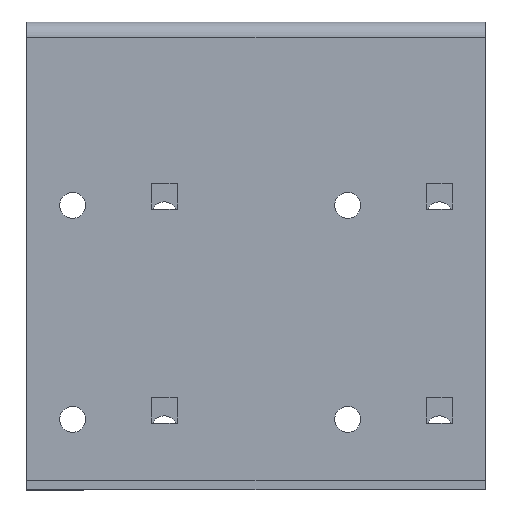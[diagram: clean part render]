
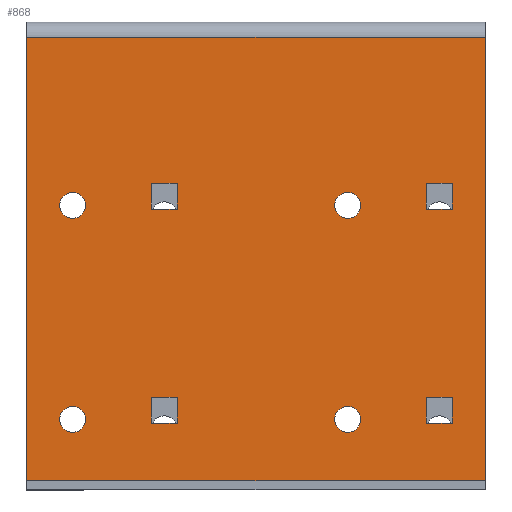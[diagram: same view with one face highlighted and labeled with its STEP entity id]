
A CAD part, top view. The second image highlights one B-rep face of the part: STEP entity #868.
In plain terms, the highlighted planar face has unit normal (0, 0, 1).
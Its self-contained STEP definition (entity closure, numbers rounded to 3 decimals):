
#23=FACE_BOUND('',#104,.T.);
#24=FACE_BOUND('',#105,.T.);
#25=FACE_BOUND('',#106,.T.);
#26=FACE_BOUND('',#107,.T.);
#27=FACE_BOUND('',#108,.T.);
#28=FACE_BOUND('',#109,.T.);
#29=FACE_BOUND('',#110,.T.);
#30=FACE_BOUND('',#111,.T.);
#57=FACE_OUTER_BOUND('',#103,.T.);
#103=EDGE_LOOP('',(#606,#607,#608,#609));
#104=EDGE_LOOP('',(#610));
#105=EDGE_LOOP('',(#611));
#106=EDGE_LOOP('',(#612));
#107=EDGE_LOOP('',(#613));
#108=EDGE_LOOP('',(#614,#615,#616,#617));
#109=EDGE_LOOP('',(#618,#619,#620,#621));
#110=EDGE_LOOP('',(#622,#623,#624,#625));
#111=EDGE_LOOP('',(#626,#627,#628,#629));
#170=LINE('',#1239,#272);
#174=LINE('',#1246,#276);
#175=LINE('',#1249,#277);
#176=LINE('',#1250,#278);
#177=LINE('',#1261,#279);
#178=LINE('',#1263,#280);
#179=LINE('',#1265,#281);
#180=LINE('',#1266,#282);
#181=LINE('',#1269,#283);
#182=LINE('',#1271,#284);
#183=LINE('',#1273,#285);
#184=LINE('',#1274,#286);
#185=LINE('',#1277,#287);
#186=LINE('',#1279,#288);
#187=LINE('',#1281,#289);
#188=LINE('',#1282,#290);
#189=LINE('',#1285,#291);
#190=LINE('',#1287,#292);
#191=LINE('',#1289,#293);
#192=LINE('',#1290,#294);
#272=VECTOR('',#1002,150.);
#276=VECTOR('',#1008,145.);
#277=VECTOR('',#1011,150.);
#278=VECTOR('',#1012,145.);
#279=VECTOR('',#1021,8.5);
#280=VECTOR('',#1022,8.5);
#281=VECTOR('',#1023,8.5);
#282=VECTOR('',#1024,8.5);
#283=VECTOR('',#1025,8.5);
#284=VECTOR('',#1026,8.5);
#285=VECTOR('',#1027,8.5);
#286=VECTOR('',#1028,8.5);
#287=VECTOR('',#1029,8.5);
#288=VECTOR('',#1030,8.5);
#289=VECTOR('',#1031,8.5);
#290=VECTOR('',#1032,8.5);
#291=VECTOR('',#1033,8.5);
#292=VECTOR('',#1034,8.5);
#293=VECTOR('',#1035,8.5);
#294=VECTOR('',#1036,8.5);
#372=CIRCLE('',#921,4.25);
#373=CIRCLE('',#922,4.25);
#374=CIRCLE('',#923,4.25);
#375=CIRCLE('',#924,4.25);
#389=VERTEX_POINT('',#1223);
#392=VERTEX_POINT('',#1230);
#395=VERTEX_POINT('',#1244);
#396=VERTEX_POINT('',#1248);
#397=VERTEX_POINT('',#1251);
#398=VERTEX_POINT('',#1253);
#399=VERTEX_POINT('',#1255);
#400=VERTEX_POINT('',#1257);
#401=VERTEX_POINT('',#1259);
#402=VERTEX_POINT('',#1260);
#403=VERTEX_POINT('',#1262);
#404=VERTEX_POINT('',#1264);
#405=VERTEX_POINT('',#1267);
#406=VERTEX_POINT('',#1268);
#407=VERTEX_POINT('',#1270);
#408=VERTEX_POINT('',#1272);
#409=VERTEX_POINT('',#1275);
#410=VERTEX_POINT('',#1276);
#411=VERTEX_POINT('',#1278);
#412=VERTEX_POINT('',#1280);
#413=VERTEX_POINT('',#1283);
#414=VERTEX_POINT('',#1284);
#415=VERTEX_POINT('',#1286);
#416=VERTEX_POINT('',#1288);
#476=EDGE_CURVE('',#389,#392,#170,.T.);
#480=EDGE_CURVE('',#395,#392,#174,.T.);
#481=EDGE_CURVE('',#396,#395,#175,.T.);
#482=EDGE_CURVE('',#389,#396,#176,.T.);
#483=EDGE_CURVE('',#397,#397,#372,.T.);
#484=EDGE_CURVE('',#398,#398,#373,.T.);
#485=EDGE_CURVE('',#399,#399,#374,.T.);
#486=EDGE_CURVE('',#400,#400,#375,.T.);
#487=EDGE_CURVE('',#401,#402,#177,.T.);
#488=EDGE_CURVE('',#402,#403,#178,.T.);
#489=EDGE_CURVE('',#403,#404,#179,.T.);
#490=EDGE_CURVE('',#404,#401,#180,.T.);
#491=EDGE_CURVE('',#405,#406,#181,.T.);
#492=EDGE_CURVE('',#406,#407,#182,.T.);
#493=EDGE_CURVE('',#407,#408,#183,.T.);
#494=EDGE_CURVE('',#408,#405,#184,.T.);
#495=EDGE_CURVE('',#409,#410,#185,.T.);
#496=EDGE_CURVE('',#410,#411,#186,.T.);
#497=EDGE_CURVE('',#411,#412,#187,.T.);
#498=EDGE_CURVE('',#412,#409,#188,.T.);
#499=EDGE_CURVE('',#413,#414,#189,.T.);
#500=EDGE_CURVE('',#414,#415,#190,.T.);
#501=EDGE_CURVE('',#415,#416,#191,.T.);
#502=EDGE_CURVE('',#416,#413,#192,.T.);
#606=ORIENTED_EDGE('',*,*,#476,.T.);
#607=ORIENTED_EDGE('',*,*,#480,.F.);
#608=ORIENTED_EDGE('',*,*,#481,.F.);
#609=ORIENTED_EDGE('',*,*,#482,.F.);
#610=ORIENTED_EDGE('',*,*,#483,.T.);
#611=ORIENTED_EDGE('',*,*,#484,.T.);
#612=ORIENTED_EDGE('',*,*,#485,.T.);
#613=ORIENTED_EDGE('',*,*,#486,.T.);
#614=ORIENTED_EDGE('',*,*,#487,.T.);
#615=ORIENTED_EDGE('',*,*,#488,.T.);
#616=ORIENTED_EDGE('',*,*,#489,.T.);
#617=ORIENTED_EDGE('',*,*,#490,.T.);
#618=ORIENTED_EDGE('',*,*,#491,.T.);
#619=ORIENTED_EDGE('',*,*,#492,.T.);
#620=ORIENTED_EDGE('',*,*,#493,.T.);
#621=ORIENTED_EDGE('',*,*,#494,.T.);
#622=ORIENTED_EDGE('',*,*,#495,.T.);
#623=ORIENTED_EDGE('',*,*,#496,.T.);
#624=ORIENTED_EDGE('',*,*,#497,.T.);
#625=ORIENTED_EDGE('',*,*,#498,.T.);
#626=ORIENTED_EDGE('',*,*,#499,.T.);
#627=ORIENTED_EDGE('',*,*,#500,.T.);
#628=ORIENTED_EDGE('',*,*,#501,.T.);
#629=ORIENTED_EDGE('',*,*,#502,.T.);
#829=PLANE('',#920);
#868=ADVANCED_FACE('',(#57,#23,#24,#25,#26,#27,#28,#29,#30),#829,.T.);
#920=AXIS2_PLACEMENT_3D('',#1247,#1009,#1010);
#921=AXIS2_PLACEMENT_3D('',#1252,#1013,#1014);
#922=AXIS2_PLACEMENT_3D('',#1254,#1015,#1016);
#923=AXIS2_PLACEMENT_3D('',#1256,#1017,#1018);
#924=AXIS2_PLACEMENT_3D('',#1258,#1019,#1020);
#1002=DIRECTION('',(-1.,0.,0.));
#1008=DIRECTION('',(0.,1.,0.));
#1009=DIRECTION('center_axis',(0.,0.,1.));
#1010=DIRECTION('ref_axis',(1.,0.,0.));
#1011=DIRECTION('',(-1.,0.,0.));
#1012=DIRECTION('',(0.,-1.,0.));
#1013=DIRECTION('center_axis',(0.,0.,-1.));
#1014=DIRECTION('ref_axis',(1.,0.,0.));
#1015=DIRECTION('center_axis',(0.,0.,-1.));
#1016=DIRECTION('ref_axis',(1.,0.,0.));
#1017=DIRECTION('center_axis',(0.,0.,-1.));
#1018=DIRECTION('ref_axis',(1.,0.,0.));
#1019=DIRECTION('center_axis',(0.,0.,-1.));
#1020=DIRECTION('ref_axis',(1.,0.,0.));
#1021=DIRECTION('',(0.,-1.,0.));
#1022=DIRECTION('',(-1.,0.,0.));
#1023=DIRECTION('',(0.,1.,0.));
#1024=DIRECTION('',(1.,0.,0.));
#1025=DIRECTION('',(0.,-1.,0.));
#1026=DIRECTION('',(-1.,0.,0.));
#1027=DIRECTION('',(0.,1.,0.));
#1028=DIRECTION('',(1.,0.,0.));
#1029=DIRECTION('',(0.,-1.,0.));
#1030=DIRECTION('',(-1.,0.,0.));
#1031=DIRECTION('',(0.,1.,0.));
#1032=DIRECTION('',(1.,0.,0.));
#1033=DIRECTION('',(0.,-1.,0.));
#1034=DIRECTION('',(-1.,0.,0.));
#1035=DIRECTION('',(0.,1.,0.));
#1036=DIRECTION('',(1.,0.,0.));
#1223=CARTESIAN_POINT('',(75.,-23.,3.));
#1230=CARTESIAN_POINT('',(-75.,-23.,3.));
#1239=CARTESIAN_POINT('',(-37.5,-23.,3.));
#1244=CARTESIAN_POINT('',(-75.,-168.,3.));
#1246=CARTESIAN_POINT('',(-75.,25.,3.));
#1247=CARTESIAN_POINT('Origin',(0.,-55.171,
3.));
#1248=CARTESIAN_POINT('',(75.,-168.,3.));
#1249=CARTESIAN_POINT('',(-75.,-168.,3.));
#1250=CARTESIAN_POINT('',(75.,-168.,3.));
#1251=CARTESIAN_POINT('',(-55.75,-148.,3.));
#1252=CARTESIAN_POINT('Origin',(-60.,-148.,3.));
#1253=CARTESIAN_POINT('',(34.25,-148.,3.));
#1254=CARTESIAN_POINT('Origin',(30.,-148.,3.));
#1255=CARTESIAN_POINT('',(34.25,-78.,3.));
#1256=CARTESIAN_POINT('Origin',(30.,-78.,3.));
#1257=CARTESIAN_POINT('',(-55.75,-78.,3.));
#1258=CARTESIAN_POINT('Origin',(-60.,-78.,3.));
#1259=CARTESIAN_POINT('',(64.25,-70.75,3.));
#1260=CARTESIAN_POINT('',(64.25,-79.25,3.));
#1261=CARTESIAN_POINT('',(64.25,-62.961,3.));
#1262=CARTESIAN_POINT('',(55.75,-79.25,3.));
#1263=CARTESIAN_POINT('',(32.125,-79.25,3.));
#1264=CARTESIAN_POINT('',(55.75,-70.75,3.));
#1265=CARTESIAN_POINT('',(55.75,-67.211,3.));
#1266=CARTESIAN_POINT('',(27.875,-70.75,3.));
#1267=CARTESIAN_POINT('',(-25.75,-140.75,3.));
#1268=CARTESIAN_POINT('',(-25.75,-149.25,3.));
#1269=CARTESIAN_POINT('',(-25.75,-97.961,3.));
#1270=CARTESIAN_POINT('',(-34.25,-149.25,3.));
#1271=CARTESIAN_POINT('',(-12.875,-149.25,3.));
#1272=CARTESIAN_POINT('',(-34.25,-140.75,3.));
#1273=CARTESIAN_POINT('',(-34.25,-102.211,3.));
#1274=CARTESIAN_POINT('',(-17.125,-140.75,3.));
#1275=CARTESIAN_POINT('',(64.25,-140.75,3.));
#1276=CARTESIAN_POINT('',(64.25,-149.25,3.));
#1277=CARTESIAN_POINT('',(64.25,-97.961,3.));
#1278=CARTESIAN_POINT('',(55.75,-149.25,3.));
#1279=CARTESIAN_POINT('',(32.125,-149.25,3.));
#1280=CARTESIAN_POINT('',(55.75,-140.75,3.));
#1281=CARTESIAN_POINT('',(55.75,-102.211,3.));
#1282=CARTESIAN_POINT('',(27.875,-140.75,3.));
#1283=CARTESIAN_POINT('',(-25.75,-70.75,3.));
#1284=CARTESIAN_POINT('',(-25.75,-79.25,3.));
#1285=CARTESIAN_POINT('',(-25.75,-62.961,3.));
#1286=CARTESIAN_POINT('',(-34.25,-79.25,3.));
#1287=CARTESIAN_POINT('',(-12.875,-79.25,3.));
#1288=CARTESIAN_POINT('',(-34.25,-70.75,3.));
#1289=CARTESIAN_POINT('',(-34.25,-67.211,3.));
#1290=CARTESIAN_POINT('',(-17.125,-70.75,3.));
